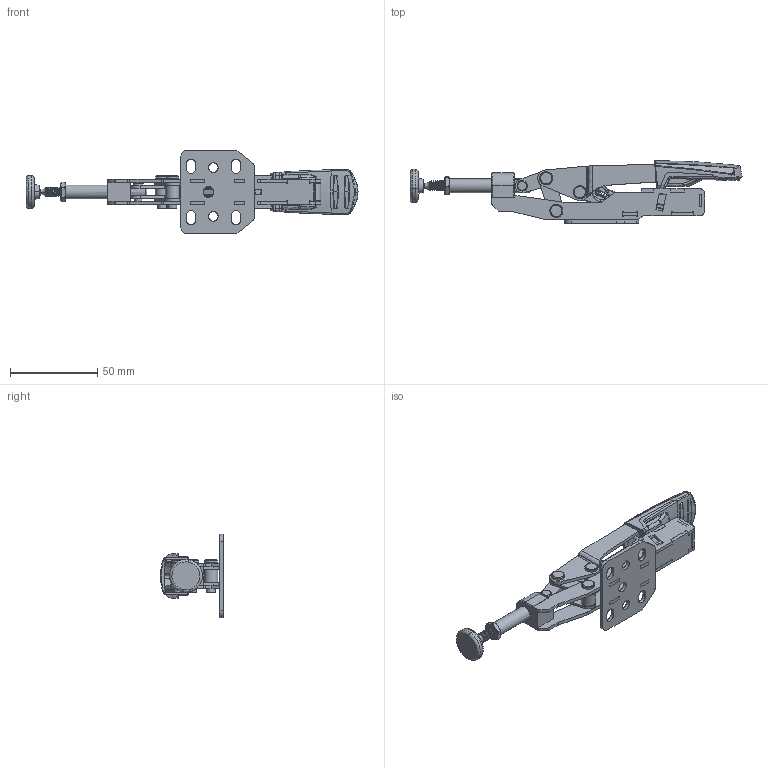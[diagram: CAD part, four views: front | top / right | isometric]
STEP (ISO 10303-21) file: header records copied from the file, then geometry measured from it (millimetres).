
FILE_DESCRIPTION( ('This file contains a STEP AP42 implementation' ,'as created by ZW3D STEP Interface translator.') ,'2;1' );
FILE_NAME( 'STC-IHH15.stp' ,'20 227.131230', (''), ('ZWCAD Software Co.'), 'Version 1.0', 'ZW3D to STEP translator', '' );
FILE_SCHEMA(('AUTOMOTIVE_DESIGN'));
Length unit declared in the file: millimetre
Products named in the file (37): 0; 3205366a_STC-IHH15; 3101813a_Grundpl_kp_IHHeinbau; 3009998a_Grundplatte HH20; 3010015a_Seitenwand_IHH15_re; 3010014a_Seitenwand_IHH15_li; 3009999a Keilauflage; 3010000a_Deckplatte; 3010016a_Auge_IHH15; 3010004a_Federhalter_HH20; 3010005a_Deckel_HH20; 3010019a_Schubstange; 3010017a_Spannarm-Kurz; 3010018a_Spannarm-lang; 3010010a_Distanz_IHH15_5x8_lang; 3010011a_Distanz_IHH15_5x8_kurz; 3010013a_Bolzen; 3008570b; 3008586a; 3008591a; 3008590a; 3101810a_Hebel_kp-HH20; 3009995a_Hebel-HH20re; 3009996a_Hebel-HH20li; 3009997a_2K Griff HH20; 3010012a_Niet_5mm; 3010003a_Druckhebel; 3008742c; 3008741a; 3010007aGleitblech HH20; 3008744a; 3008746b; 3008749a_Drehfeder S1; 3008749a_Drehfeder S2; 3008768a_Druckfeder einbau; 3008575a; 3008822a
Assembly tree (41 placements, depth 4):
  0
  3205366a_STC-IHH15
    3101813a_Grundpl_kp_IHHeinbau
      3009998a_Grundplatte HH20
      3010015a_Seitenwand_IHH15_re
        3010014a_Seitenwand_IHH15_li
      3010014a_Seitenwand_IHH15_li
      3009999a Keilauflage
      3010000a_Deckplatte
      3010016a_Auge_IHH15
      3010004a_Federhalter_HH20
      3010005a_Deckel_HH20
    3010019a_Schubstange
    3010017a_Spannarm-Kurz  x2
    3010018a_Spannarm-lang  x2
    3010010a_Distanz_IHH15_5x8_lang
    3010011a_Distanz_IHH15_5x8_kurz
    3010013a_Bolzen
    3008570b
    3008586a
    3008591a
    3008590a
    3101810a_Hebel_kp-HH20
      3009995a_Hebel-HH20re
      3009996a_Hebel-HH20li
      3009997a_2K Griff HH20
    3010012a_Niet_5mm  x3
    3010003a_Druckhebel
    3008742c
    3008741a
    3010007aGleitblech HH20
    3008744a
    3008746b
    3008749a_Drehfeder S1
    3008749a_Drehfeder S2
    3008768a_Druckfeder einbau  x2
    3008575a
    3008822a
Bounding box: 190.61 x 36.13 x 48 mm (x, y, z)
Volume: 39489 mm3; surface area: 43033.4 mm2
Topology: 39 solids, 39 shells, 1403 faces, 3375 edges, 2047 vertices
Faces by surface type: bspline 1403
Entity records: 117321 total; most frequent: CARTESIAN_POINT 96855, ORIENTED_EDGE 6146, EDGE_CURVE 3071, B_SPLINE_CURVE_WITH_KNOTS 2202, VERTEX_POINT 1862, EDGE_LOOP 1391, FACE_OUTER_BOUND 1293, ADVANCED_FACE 1293
